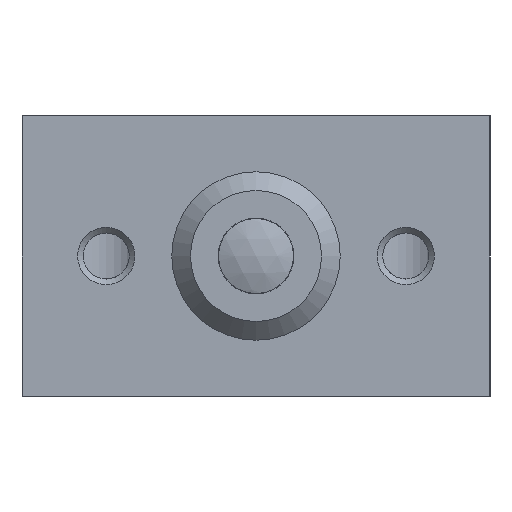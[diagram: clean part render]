
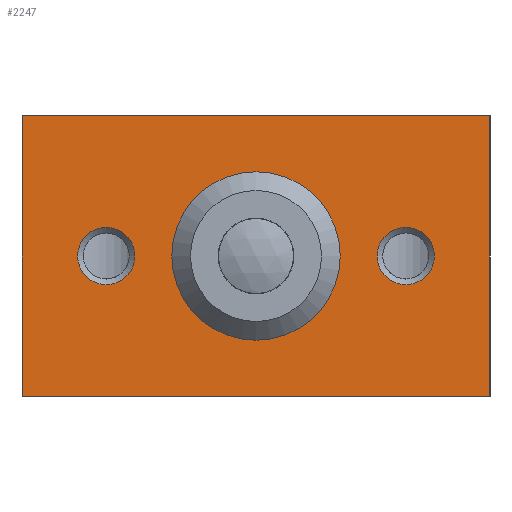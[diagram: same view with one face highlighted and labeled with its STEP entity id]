
A CAD part, left-side view. The second image highlights one B-rep face of the part: STEP entity #2247.
In plain terms, the highlighted planar face has unit normal (-1, 0, 0).
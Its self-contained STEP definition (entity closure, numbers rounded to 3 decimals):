
#149=LINE('',#4047,#277);
#150=LINE('',#4050,#278);
#151=LINE('',#4052,#279);
#152=LINE('',#4054,#280);
#277=VECTOR('',#3563,1000.);
#278=VECTOR('',#3564,1000.);
#279=VECTOR('',#3565,1000.);
#280=VECTOR('',#3566,1000.);
#441=PLANE('',#3281);
#555=ORIENTED_EDGE('',*,*,#1116,.T.);
#556=ORIENTED_EDGE('',*,*,#1117,.T.);
#557=ORIENTED_EDGE('',*,*,#1118,.T.);
#558=ORIENTED_EDGE('',*,*,#1119,.T.);
#559=ORIENTED_EDGE('',*,*,#1120,.T.);
#560=ORIENTED_EDGE('',*,*,#1121,.F.);
#561=ORIENTED_EDGE('',*,*,#1122,.F.);
#1116=EDGE_CURVE('',#1415,#1415,#1640,.F.);
#1117=EDGE_CURVE('',#1416,#1416,#1641,.F.);
#1118=EDGE_CURVE('',#1417,#1417,#1642,.F.);
#1119=EDGE_CURVE('',#1418,#1419,#149,.T.);
#1120=EDGE_CURVE('',#1419,#1420,#150,.T.);
#1121=EDGE_CURVE('',#1421,#1420,#151,.T.);
#1122=EDGE_CURVE('',#1418,#1421,#152,.T.);
#1415=VERTEX_POINT('',#4042);
#1416=VERTEX_POINT('',#4044);
#1417=VERTEX_POINT('',#4046);
#1418=VERTEX_POINT('',#4048);
#1419=VERTEX_POINT('',#4049);
#1420=VERTEX_POINT('',#4051);
#1421=VERTEX_POINT('',#4053);
#1640=CIRCLE('',#3282,4.088);
#1641=CIRCLE('',#3283,1.53);
#1642=CIRCLE('',#3284,1.53);
#1761=EDGE_LOOP('',(#555));
#1762=EDGE_LOOP('',(#556));
#1763=EDGE_LOOP('',(#557));
#1764=EDGE_LOOP('',(#558,#559,#560,#561));
#2003=FACE_BOUND('',#1761,.T.);
#2004=FACE_BOUND('',#1762,.T.);
#2005=FACE_BOUND('',#1763,.T.);
#2006=FACE_BOUND('',#1764,.T.);
#2247=ADVANCED_FACE('',(#2003,#2004,#2005,#2006),#441,.T.);
#3281=AXIS2_PLACEMENT_3D('',#4040,#3555,#3556);
#3282=AXIS2_PLACEMENT_3D('',#4041,#3557,#3558);
#3283=AXIS2_PLACEMENT_3D('',#4043,#3559,#3560);
#3284=AXIS2_PLACEMENT_3D('',#4045,#3561,#3562);
#3555=DIRECTION('',(-1.,0.,0.));
#3556=DIRECTION('',(0.,1.,0.));
#3557=DIRECTION('',(-1.,0.,0.));
#3558=DIRECTION('',(0.,0.,1.));
#3559=DIRECTION('',(-1.,0.,0.));
#3560=DIRECTION('',(0.,0.,1.));
#3561=DIRECTION('',(-1.,0.,0.));
#3562=DIRECTION('',(0.,0.,1.));
#3563=DIRECTION('',(0.,1.,0.));
#3564=DIRECTION('',(0.,0.,-1.));
#3565=DIRECTION('',(0.,1.,0.));
#3566=DIRECTION('',(0.,0.,-1.));
#4040=CARTESIAN_POINT('',(-32.,-12.5,7.5));
#4041=CARTESIAN_POINT('',(-32.,0.,0.));
#4042=CARTESIAN_POINT('',(-32.,0.,4.088));
#4043=CARTESIAN_POINT('',(-32.,8.,0.));
#4044=CARTESIAN_POINT('',(-32.,8.,1.53));
#4045=CARTESIAN_POINT('',(-32.,-8.,0.));
#4046=CARTESIAN_POINT('',(-32.,-8.,1.53));
#4047=CARTESIAN_POINT('',(-32.,-12.5,7.5));
#4048=CARTESIAN_POINT('',(-32.,-12.5,7.5));
#4049=CARTESIAN_POINT('',(-32.,12.5,7.5));
#4050=CARTESIAN_POINT('',(-32.,12.5,7.5));
#4051=CARTESIAN_POINT('',(-32.,12.5,-7.5));
#4052=CARTESIAN_POINT('',(-32.,-12.5,-7.5));
#4053=CARTESIAN_POINT('',(-32.,-12.5,-7.5));
#4054=CARTESIAN_POINT('',(-32.,-12.5,7.5));
